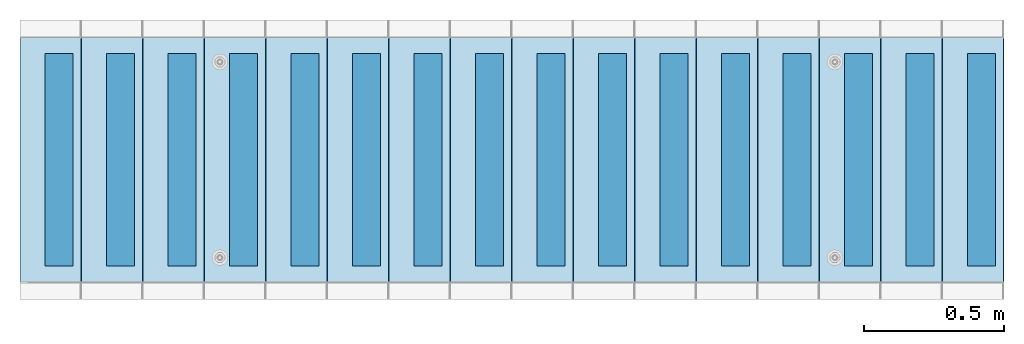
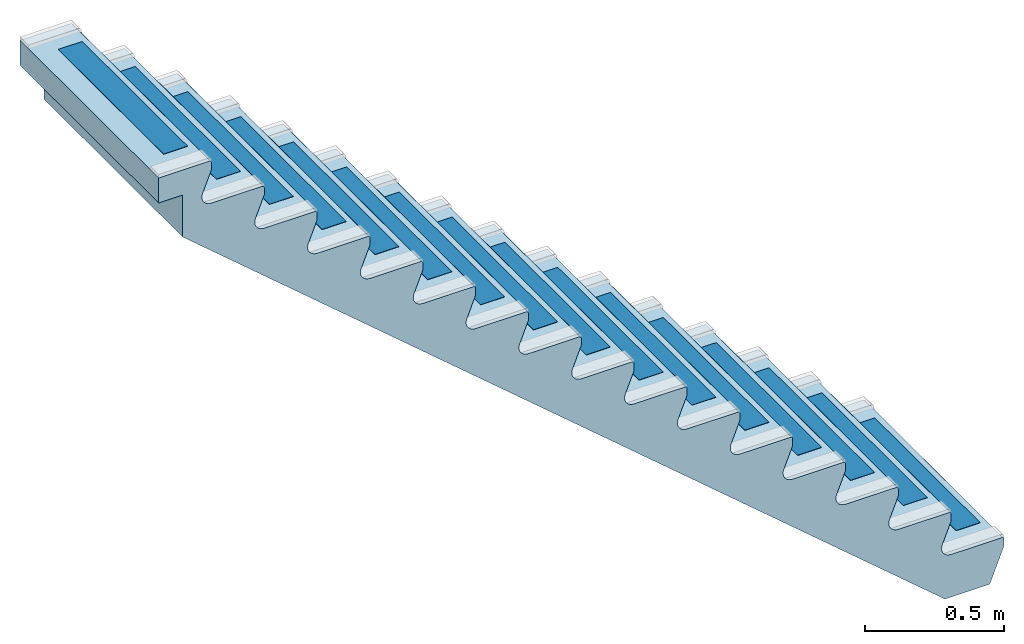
# One storey, part 1 of 4: 16 beams, 1 slab, 17 elements without a shape of their own.
"""IFC2X3 building model written with IfcOpenShell, lengths in millimetres."""

from ifc_helpers import new_model, si_unit, frame, frame_2d, origin_with_axes, origin_2d_with_axis, place, context, subcontext, project, spatial, polyline, circle_curve, parameter, trimmed, segment, composite_curve, rectangle, outline, extrude, material, type_object, element, aggregate, save


model = new_model("IFC2X3")

# Units and contexts
model_context = context("Model", 3, precision=1e-05, world=origin_with_axes())
body_context = subcontext(model_context, "Body", "Model", "MODEL_VIEW")
ifc_project = project(units=[si_unit("LENGTHUNIT", "METRE", prefix="MILLI"), si_unit("AREAUNIT", "SQUARE_METRE"), si_unit("VOLUMEUNIT", "CUBIC_METRE"), si_unit("MASSUNIT", "GRAM", prefix="KILO"), si_unit("TIMEUNIT", "SECOND"), si_unit("PLANEANGLEUNIT", "RADIAN"), si_unit("SOLIDANGLEUNIT", "STERADIAN"), si_unit("THERMODYNAMICTEMPERATUREUNIT", "DEGREE_CELSIUS"), si_unit("LUMINOUSINTENSITYUNIT", "LUMEN")], contexts=[model_context])

# Site, building, storey
site_placement = place(None, origin_with_axes())
site = spatial("IfcSite", under=ifc_project, at=site_placement, Name="Undefined", CompositionType="ELEMENT")
building_placement = place(site_placement, origin_with_axes())
building = spatial("IfcBuilding", under=site, at=building_placement, Name="Undefined", CompositionType="ELEMENT")
storey_placement = place(building_placement, origin_with_axes())
storey = spatial("IfcBuildingStorey", under=building, at=storey_placement, Name="Undefined", CompositionType="ELEMENT", Elevation=0.0)

# Assemblies, beams, slab
assembly_1_placement = place(storey_placement, origin_with_axes())
assembly_1 = element("IfcElementAssembly", 1, at=assembly_1_placement, inside=storey, Name="Trap met bomen", AssemblyPlace="NOTDEFINED", PredefinedType="REINFORCEMENT_UNIT")
assembly_2_placement = place(assembly_1_placement, origin_with_axes())
assembly_2 = element("IfcElementAssembly", 2, at=assembly_2_placement, Name="AntiSkid", AssemblyPlace="NOTDEFINED", PredefinedType="NOTDEFINED")
ifc_material_1 = material(Name="MISCELLANEOUS/RUBBER_HARD")
beam_type = type_object("IfcBeamType", Name="100*2", PredefinedType="NOTDEFINED")
beam_1_placement = place(assembly_2_placement, frame((4620.0, 11620.0, 3000.0), z_axis=(0.0, 0.0, 1.0), x_axis=(0.0, 1.0, 0.0)))
beam_1 = element("IfcBeam", 3, at=beam_1_placement, type_object=beam_type, material=ifc_material_1, Name="AntiSkid", ObjectType="100*2", context=body_context, shape_type="SweptSolid", body=[
    extrude(rectangle(XDim=100.0, YDim=2.0, at=origin_2d_with_axis()), frame((760.0, 0.0, 0.0), z_axis=(-1.0, 0.0, 0.0), x_axis=(0.0, -1.0, 0.0)), (0.0, 0.0, 1.0), 760.0),
])
aggregate(assembly_2, [beam_1])
assembly_3_placement = place(assembly_1_placement, origin_with_axes())
assembly_3 = element("IfcElementAssembly", 4, at=assembly_3_placement, Name="AntiSkid", AssemblyPlace="NOTDEFINED", PredefinedType="NOTDEFINED")
beam_2_placement = place(assembly_3_placement, frame((4840.0, 11620.0, 2812.5), z_axis=(0.0, 0.0, 1.0), x_axis=(0.0, 1.0, 0.0)))
beam_2 = element("IfcBeam", 5, at=beam_2_placement, type_object=beam_type, material=ifc_material_1, Name="AntiSkid", ObjectType="100*2", context=body_context, shape_type="SweptSolid", body=[
    extrude(rectangle(XDim=100.0, YDim=2.0, at=origin_2d_with_axis()), frame((760.0, 0.0, 0.0), z_axis=(-1.0, 0.0, 0.0), x_axis=(0.0, -1.0, 0.0)), (0.0, 0.0, 1.0), 760.0),
])
aggregate(assembly_3, [beam_2])
assembly_4_placement = place(assembly_1_placement, origin_with_axes())
assembly_4 = element("IfcElementAssembly", 6, at=assembly_4_placement, Name="AntiSkid", AssemblyPlace="NOTDEFINED", PredefinedType="NOTDEFINED")
beam_3_placement = place(assembly_4_placement, frame((5060.0, 11620.0, 2625.0), z_axis=(0.0, 0.0, 1.0), x_axis=(0.0, 1.0, 0.0)))
beam_3 = element("IfcBeam", 7, at=beam_3_placement, type_object=beam_type, material=ifc_material_1, Name="AntiSkid", ObjectType="100*2", context=body_context, shape_type="SweptSolid", body=[
    extrude(rectangle(XDim=100.0, YDim=2.0, at=origin_2d_with_axis()), frame((760.0, 0.0, 0.0), z_axis=(-1.0, 0.0, 0.0), x_axis=(0.0, -1.0, 0.0)), (0.0, 0.0, 1.0), 760.0),
])
aggregate(assembly_4, [beam_3])
assembly_5_placement = place(assembly_1_placement, origin_with_axes())
assembly_5 = element("IfcElementAssembly", 8, at=assembly_5_placement, Name="AntiSkid", AssemblyPlace="NOTDEFINED", PredefinedType="NOTDEFINED")
beam_4_placement = place(assembly_5_placement, frame((5280.0, 11620.0, 2437.5), z_axis=(0.0, 0.0, 1.0), x_axis=(0.0, 1.0, 0.0)))
beam_4 = element("IfcBeam", 9, at=beam_4_placement, type_object=beam_type, material=ifc_material_1, Name="AntiSkid", ObjectType="100*2", context=body_context, shape_type="SweptSolid", body=[
    extrude(rectangle(XDim=100.0, YDim=2.0, at=origin_2d_with_axis()), frame((760.0, 0.0, 0.0), z_axis=(-1.0, 0.0, 0.0), x_axis=(0.0, -1.0, 0.0)), (0.0, 0.0, 1.0), 760.0),
])
aggregate(assembly_5, [beam_4])
assembly_6_placement = place(assembly_1_placement, origin_with_axes())
assembly_6 = element("IfcElementAssembly", 10, at=assembly_6_placement, Name="AntiSkid", AssemblyPlace="NOTDEFINED", PredefinedType="NOTDEFINED")
beam_5_placement = place(assembly_6_placement, frame((5500.0, 11620.0, 2250.0), z_axis=(0.0, 0.0, 1.0), x_axis=(0.0, 1.0, 0.0)))
beam_5 = element("IfcBeam", 11, at=beam_5_placement, type_object=beam_type, material=ifc_material_1, Name="AntiSkid", ObjectType="100*2", context=body_context, shape_type="SweptSolid", body=[
    extrude(rectangle(XDim=100.0, YDim=2.0, at=origin_2d_with_axis()), frame((760.0, 0.0, 0.0), z_axis=(-1.0, 0.0, 0.0), x_axis=(0.0, -1.0, 0.0)), (0.0, 0.0, 1.0), 760.0),
])
aggregate(assembly_6, [beam_5])
assembly_7_placement = place(assembly_1_placement, origin_with_axes())
assembly_7 = element("IfcElementAssembly", 12, at=assembly_7_placement, Name="AntiSkid", AssemblyPlace="NOTDEFINED", PredefinedType="NOTDEFINED")
beam_6_placement = place(assembly_7_placement, frame((5720.0, 11620.0, 2062.5), z_axis=(0.0, 0.0, 1.0), x_axis=(0.0, 1.0, 0.0)))
beam_6 = element("IfcBeam", 13, at=beam_6_placement, type_object=beam_type, material=ifc_material_1, Name="AntiSkid", ObjectType="100*2", context=body_context, shape_type="SweptSolid", body=[
    extrude(rectangle(XDim=100.0, YDim=2.0, at=origin_2d_with_axis()), frame((760.0, 0.0, 0.0), z_axis=(-1.0, 0.0, 0.0), x_axis=(0.0, -1.0, 0.0)), (0.0, 0.0, 1.0), 760.0),
])
aggregate(assembly_7, [beam_6])
assembly_8_placement = place(assembly_1_placement, origin_with_axes())
assembly_8 = element("IfcElementAssembly", 14, at=assembly_8_placement, Name="AntiSkid", AssemblyPlace="NOTDEFINED", PredefinedType="NOTDEFINED")
beam_7_placement = place(assembly_8_placement, frame((5940.0, 11620.0, 1875.0), z_axis=(0.0, 0.0, 1.0), x_axis=(0.0, 1.0, 0.0)))
beam_7 = element("IfcBeam", 15, at=beam_7_placement, type_object=beam_type, material=ifc_material_1, Name="AntiSkid", ObjectType="100*2", context=body_context, shape_type="SweptSolid", body=[
    extrude(rectangle(XDim=100.0, YDim=2.0, at=origin_2d_with_axis()), frame((760.0, 0.0, 0.0), z_axis=(-1.0, 0.0, 0.0), x_axis=(0.0, -1.0, 0.0)), (0.0, 0.0, 1.0), 760.0),
])
aggregate(assembly_8, [beam_7])
assembly_9_placement = place(assembly_1_placement, origin_with_axes())
assembly_9 = element("IfcElementAssembly", 16, at=assembly_9_placement, Name="AntiSkid", AssemblyPlace="NOTDEFINED", PredefinedType="NOTDEFINED")
beam_8_placement = place(assembly_9_placement, frame((6160.0, 11620.0, 1687.5), z_axis=(0.0, 0.0, 1.0), x_axis=(0.0, 1.0, 0.0)))
beam_8 = element("IfcBeam", 17, at=beam_8_placement, type_object=beam_type, material=ifc_material_1, Name="AntiSkid", ObjectType="100*2", context=body_context, shape_type="SweptSolid", body=[
    extrude(rectangle(XDim=100.0, YDim=2.0, at=origin_2d_with_axis()), frame((760.0, 0.0, 0.0), z_axis=(-1.0, 0.0, 0.0), x_axis=(0.0, -1.0, 0.0)), (0.0, 0.0, 1.0), 760.0),
])
aggregate(assembly_9, [beam_8])
assembly_10_placement = place(assembly_1_placement, origin_with_axes())
assembly_10 = element("IfcElementAssembly", 18, at=assembly_10_placement, Name="AntiSkid", AssemblyPlace="NOTDEFINED", PredefinedType="NOTDEFINED")
beam_9_placement = place(assembly_10_placement, frame((6380.0, 11620.0, 1500.0), z_axis=(0.0, 0.0, 1.0), x_axis=(0.0, 1.0, 0.0)))
beam_9 = element("IfcBeam", 19, at=beam_9_placement, type_object=beam_type, material=ifc_material_1, Name="AntiSkid", ObjectType="100*2", context=body_context, shape_type="SweptSolid", body=[
    extrude(rectangle(XDim=100.0, YDim=2.0, at=origin_2d_with_axis()), frame((760.0, 0.0, 0.0), z_axis=(-1.0, 0.0, 0.0), x_axis=(0.0, -1.0, 0.0)), (0.0, 0.0, 1.0), 760.0),
])
aggregate(assembly_10, [beam_9])
assembly_11_placement = place(assembly_1_placement, origin_with_axes())
assembly_11 = element("IfcElementAssembly", 20, at=assembly_11_placement, Name="AntiSkid", AssemblyPlace="NOTDEFINED", PredefinedType="NOTDEFINED")
beam_10_placement = place(assembly_11_placement, frame((6600.0, 11620.0, 1312.5), z_axis=(0.0, 0.0, 1.0), x_axis=(0.0, 1.0, 0.0)))
beam_10 = element("IfcBeam", 21, at=beam_10_placement, type_object=beam_type, material=ifc_material_1, Name="AntiSkid", ObjectType="100*2", context=body_context, shape_type="SweptSolid", body=[
    extrude(rectangle(XDim=100.0, YDim=2.0, at=origin_2d_with_axis()), frame((760.0, 0.0, 0.0), z_axis=(-1.0, 0.0, 0.0), x_axis=(0.0, -1.0, 0.0)), (0.0, 0.0, 1.0), 760.0),
])
aggregate(assembly_11, [beam_10])
assembly_12_placement = place(assembly_1_placement, origin_with_axes())
assembly_12 = element("IfcElementAssembly", 22, at=assembly_12_placement, Name="AntiSkid", AssemblyPlace="NOTDEFINED", PredefinedType="NOTDEFINED")
beam_11_placement = place(assembly_12_placement, frame((6820.0, 11620.0, 1125.0), z_axis=(0.0, 0.0, 1.0), x_axis=(0.0, 1.0, 0.0)))
beam_11 = element("IfcBeam", 23, at=beam_11_placement, type_object=beam_type, material=ifc_material_1, Name="AntiSkid", ObjectType="100*2", context=body_context, shape_type="SweptSolid", body=[
    extrude(rectangle(XDim=100.0, YDim=2.0, at=origin_2d_with_axis()), frame((760.0, 0.0, 0.0), z_axis=(-1.0, 0.0, 0.0), x_axis=(0.0, -1.0, 0.0)), (0.0, 0.0, 1.0), 760.0),
])
aggregate(assembly_12, [beam_11])
assembly_13_placement = place(assembly_1_placement, origin_with_axes())
assembly_13 = element("IfcElementAssembly", 24, at=assembly_13_placement, Name="AntiSkid", AssemblyPlace="NOTDEFINED", PredefinedType="NOTDEFINED")
beam_12_placement = place(assembly_13_placement, frame((7040.0, 11620.0, 937.500000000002), z_axis=(0.0, 0.0, 1.0), x_axis=(0.0, 1.0, 0.0)))
beam_12 = element("IfcBeam", 25, at=beam_12_placement, type_object=beam_type, material=ifc_material_1, Name="AntiSkid", ObjectType="100*2", context=body_context, shape_type="SweptSolid", body=[
    extrude(rectangle(XDim=100.0, YDim=2.0, at=origin_2d_with_axis()), frame((760.0, 0.0, 0.0), z_axis=(-1.0, 0.0, 0.0), x_axis=(0.0, -1.0, 0.0)), (0.0, 0.0, 1.0), 760.0),
])
aggregate(assembly_13, [beam_12])
assembly_14_placement = place(assembly_1_placement, origin_with_axes())
assembly_14 = element("IfcElementAssembly", 26, at=assembly_14_placement, Name="AntiSkid", AssemblyPlace="NOTDEFINED", PredefinedType="NOTDEFINED")
beam_13_placement = place(assembly_14_placement, frame((7260.0, 11620.0, 750.000000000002), z_axis=(0.0, 0.0, 1.0), x_axis=(0.0, 1.0, 0.0)))
beam_13 = element("IfcBeam", 27, at=beam_13_placement, type_object=beam_type, material=ifc_material_1, Name="AntiSkid", ObjectType="100*2", context=body_context, shape_type="SweptSolid", body=[
    extrude(rectangle(XDim=100.0, YDim=2.0, at=origin_2d_with_axis()), frame((760.0, 0.0, 0.0), z_axis=(-1.0, 0.0, 0.0), x_axis=(0.0, -1.0, 0.0)), (0.0, 0.0, 1.0), 760.0),
])
aggregate(assembly_14, [beam_13])
assembly_15_placement = place(assembly_1_placement, origin_with_axes())
assembly_15 = element("IfcElementAssembly", 28, at=assembly_15_placement, Name="AntiSkid", AssemblyPlace="NOTDEFINED", PredefinedType="NOTDEFINED")
beam_14_placement = place(assembly_15_placement, frame((7480.0, 11620.0, 562.500000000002), z_axis=(0.0, 0.0, 1.0), x_axis=(0.0, 1.0, 0.0)))
beam_14 = element("IfcBeam", 29, at=beam_14_placement, type_object=beam_type, material=ifc_material_1, Name="AntiSkid", ObjectType="100*2", context=body_context, shape_type="SweptSolid", body=[
    extrude(rectangle(XDim=100.0, YDim=2.0, at=origin_2d_with_axis()), frame((760.0, 0.0, 0.0), z_axis=(-1.0, 0.0, 0.0), x_axis=(0.0, -1.0, 0.0)), (0.0, 0.0, 1.0), 760.0),
])
aggregate(assembly_15, [beam_14])
assembly_16_placement = place(assembly_1_placement, origin_with_axes())
assembly_16 = element("IfcElementAssembly", 30, at=assembly_16_placement, Name="AntiSkid", AssemblyPlace="NOTDEFINED", PredefinedType="NOTDEFINED")
beam_15_placement = place(assembly_16_placement, frame((7700.0, 11620.0, 375.000000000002), z_axis=(0.0, 0.0, 1.0), x_axis=(0.0, 1.0, 0.0)))
beam_15 = element("IfcBeam", 31, at=beam_15_placement, type_object=beam_type, material=ifc_material_1, Name="AntiSkid", ObjectType="100*2", context=body_context, shape_type="SweptSolid", body=[
    extrude(rectangle(XDim=100.0, YDim=2.0, at=origin_2d_with_axis()), frame((760.0, 0.0, 0.0), z_axis=(-1.0, 0.0, 0.0), x_axis=(0.0, -1.0, 0.0)), (0.0, 0.0, 1.0), 760.0),
])
aggregate(assembly_16, [beam_15])
assembly_17_placement = place(assembly_1_placement, origin_with_axes())
assembly_17 = element("IfcElementAssembly", 32, at=assembly_17_placement, Name="AntiSkid", AssemblyPlace="NOTDEFINED", PredefinedType="NOTDEFINED")
beam_16_placement = place(assembly_17_placement, frame((7920.0, 11620.0, 187.500000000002), z_axis=(0.0, 0.0, 1.0), x_axis=(0.0, 1.0, 0.0)))
beam_16 = element("IfcBeam", 33, at=beam_16_placement, type_object=beam_type, material=ifc_material_1, Name="AntiSkid", ObjectType="100*2", context=body_context, shape_type="SweptSolid", body=[
    extrude(rectangle(XDim=100.0, YDim=2.0, at=origin_2d_with_axis()), frame((760.0, 0.0, 0.0), z_axis=(-1.0, 0.0, 0.0), x_axis=(0.0, -1.0, 0.0)), (0.0, 0.0, 1.0), 760.0),
])
aggregate(assembly_17, [beam_16])
ifc_material_2 = material(Name="CONCRETE/C55/67")
slab_type = type_object("IfcSlabType", Name="1000*298.1", PredefinedType="NOTDEFINED")
slab_placement = place(assembly_1_placement, frame((7940.87051246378, 12000.0, 1.81898940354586e-12), z_axis=(0.0, -1.0, 0.0), x_axis=(0.372093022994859, 0.0, 0.928195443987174)))
slab = element("IfcSlab", 34, at=slab_placement, type_object=slab_type, material=ifc_material_2, Name="Trap met bomen", ObjectType="1000*298.1", PredefinedType="FLOOR", context=body_context, shape_type="SweptSolid", body=[
    extrude(outline(composite_curve([segment(polyline([(0.0, 0.0), (158.910497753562, -2.18278728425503e-11), (186.756361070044, 11.1627906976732)]), True, "CONTINUOUS"), segment(trimmed(circle_curve(frame_2d((183.035430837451, 20.444745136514), x_axis=(0.372093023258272, -0.928195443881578)), 10.0), [parameter(0.0)], [parameter(1.57079632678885)], True, "PARAMETER"), True, "CONTINUOUS"), segment(polyline([(192.317385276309, 24.1656753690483), (114.17785039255, 219.086718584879)]), True, "CONTINUOUS"), segment(trimmed(circle_curve(frame_2d((151.305668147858, 233.970439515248), x_axis=(-0.928195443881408, -0.372093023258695)), 40.0), [parameter(0.0)], [parameter(4.33112603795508)], False, "PARAMETER"), True, "CONTINUOUS"), segment(polyline([(151.305668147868, 273.970439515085), (251.086678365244, 273.970439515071), (278.932541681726, 285.133230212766)]), True, "CONTINUOUS"), segment(trimmed(circle_curve(frame_2d((275.211611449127, 294.415184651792), x_axis=(0.372093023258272, -0.928195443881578)), 10.0), [parameter(0.0)], [parameter(1.5707963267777)], True, "PARAMETER"), True, "CONTINUOUS"), segment(polyline([(284.493565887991, 298.136114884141), (206.354031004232, 493.057158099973)]), True, "CONTINUOUS"), segment(trimmed(circle_curve(frame_2d((243.481848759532, 507.940879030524), x_axis=(-0.928195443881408, -0.372093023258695)), 40.0), [parameter(0.0)], [parameter(4.33112603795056)], False, "PARAMETER"), True, "CONTINUOUS"), segment(polyline([(243.48184875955, 547.94087903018), (343.262858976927, 547.940879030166), (371.108722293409, 559.103669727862)]), True, "CONTINUOUS"), segment(trimmed(circle_curve(frame_2d((367.3877920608, 568.38562416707), x_axis=(0.372093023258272, -0.928195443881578)), 10.0), [parameter(0.0)], [parameter(1.5707963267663)], True, "PARAMETER"), True, "CONTINUOUS"), segment(polyline([(376.669746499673, 572.106554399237), (298.530211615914, 767.027597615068)]), True, "CONTINUOUS"), segment(trimmed(circle_curve(frame_2d((335.658029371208, 781.911318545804), x_axis=(-0.928195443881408, -0.372093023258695)), 40.0), [parameter(0.0)], [parameter(4.33112603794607)], False, "PARAMETER"), True, "CONTINUOUS"), segment(polyline([(335.658029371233, 821.911318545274), (435.439039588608, 821.911318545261), (463.28490290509, 833.074109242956)]), True, "CONTINUOUS"), segment(trimmed(circle_curve(frame_2d((459.563972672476, 842.356063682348), x_axis=(0.372093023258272, -0.928195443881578)), 10.0), [parameter(0.0)], [parameter(1.57079632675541)], True, "PARAMETER"), True, "CONTINUOUS"), segment(polyline([(468.845927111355, 846.076993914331), (390.706392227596, 1040.99803713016)]), True, "CONTINUOUS"), segment(trimmed(circle_curve(frame_2d((427.834209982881, 1055.88175806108), x_axis=(-0.928195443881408, -0.372093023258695)), 40.0), [parameter(0.0)], [parameter(4.33112603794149)], False, "PARAMETER"), True, "CONTINUOUS"), segment(polyline([(427.834209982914, 1095.88175806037), (527.61522020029, 1095.88175806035), (555.461083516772, 1107.04454875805)]), True, "CONTINUOUS"), segment(trimmed(circle_curve(frame_2d((551.740153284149, 1116.32650319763), x_axis=(0.372093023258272, -0.928195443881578)), 10.0), [parameter(0.0)], [parameter(1.57079632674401)], True, "PARAMETER"), True, "CONTINUOUS"), segment(polyline([(561.022107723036, 1120.04743342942), (482.882572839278, 1314.96847664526)]), True, "CONTINUOUS"), segment(trimmed(circle_curve(frame_2d((520.010390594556, 1329.85219757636), x_axis=(-0.928195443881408, -0.372093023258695)), 40.0), [parameter(0.0)], [parameter(4.33112603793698)], False, "PARAMETER"), True, "CONTINUOUS"), segment(polyline([(520.010390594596, 1369.85219757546), (619.791400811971, 1369.85219757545), (647.637264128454, 1381.01498827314)]), True, "CONTINUOUS"), segment(trimmed(circle_curve(frame_2d((643.916333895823, 1390.29694271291), x_axis=(0.372093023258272, -0.928195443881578)), 10.0), [parameter(0.0)], [parameter(1.57079632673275)], True, "PARAMETER"), True, "CONTINUOUS"), segment(polyline([(653.198288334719, 1394.01787294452), (575.05875345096, 1588.93891616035)]), True, "CONTINUOUS"), segment(trimmed(circle_curve(frame_2d((612.186571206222, 1603.82263709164), x_axis=(-0.928195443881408, -0.372093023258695)), 40.0), [parameter(0.0)], [parameter(4.33112603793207)], False, "PARAMETER"), True, "CONTINUOUS"), segment(polyline([(612.186571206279, 1643.82263709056), (711.967581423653, 1643.82263709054), (739.813444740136, 1654.98542778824)]), True, "CONTINUOUS"), segment(trimmed(circle_curve(frame_2d((736.092514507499, 1664.26738222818), x_axis=(0.372093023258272, -0.928195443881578)), 10.0), [parameter(0.0)], [parameter(1.57079632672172)], True, "PARAMETER"), True, "CONTINUOUS"), segment(polyline([(745.374468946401, 1667.98831245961), (667.234934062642, 1862.90935567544)]), True, "CONTINUOUS"), segment(trimmed(circle_curve(frame_2d((704.362751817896, 1877.79307660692), x_axis=(-0.928195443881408, -0.372093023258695)), 40.0), [parameter(0.0)], [parameter(4.33112603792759)], False, "PARAMETER"), True, "CONTINUOUS"), segment(polyline([(704.36275181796, 1917.79307660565), (804.143762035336, 1917.79307660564), (831.989625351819, 1928.95586730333)]), True, "CONTINUOUS"), segment(trimmed(circle_curve(frame_2d((828.268695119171, 1938.23782174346), x_axis=(0.372093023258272, -0.928195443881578)), 10.0), [parameter(0.0)], [parameter(1.57079632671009)], True, "PARAMETER"), True, "CONTINUOUS"), segment(polyline([(837.550649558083, 1941.95875197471), (759.411114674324, 2136.87979519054)]), True, "CONTINUOUS"), segment(trimmed(circle_curve(frame_2d((796.538932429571, 2151.7635161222), x_axis=(-0.928195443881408, -0.372093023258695)), 40.0), [parameter(0.0)], [parameter(4.33112603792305)], False, "PARAMETER"), True, "CONTINUOUS"), segment(polyline([(796.538932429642, 2191.76351612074), (896.319942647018, 2191.76351612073), (924.1658059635, 2202.92630681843)]), True, "CONTINUOUS"), segment(trimmed(circle_curve(frame_2d((920.444875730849, 2212.20826125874), x_axis=(0.372093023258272, -0.928195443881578)), 10.0), [parameter(0.0)], [parameter(1.57079632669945)], True, "PARAMETER"), True, "CONTINUOUS"), segment(polyline([(929.726830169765, 2215.9291914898), (851.587295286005, 2410.85023470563)]), True, "CONTINUOUS"), segment(trimmed(circle_curve(frame_2d((888.715113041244, 2425.73395563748), x_axis=(-0.928195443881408, -0.372093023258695)), 40.0), [parameter(0.0)], [parameter(4.33112603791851)], False, "PARAMETER"), True, "CONTINUOUS"), segment(polyline([(888.715113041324, 2465.73395563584), (988.4961232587, 2465.73395563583), (1016.34198657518, 2476.89674633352)]), True, "CONTINUOUS"), segment(trimmed(circle_curve(frame_2d((1012.62105634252, 2486.17870077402), x_axis=(0.372093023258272, -0.928195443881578)), 10.0), [parameter(0.0)], [parameter(1.57079632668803)], True, "PARAMETER"), True, "CONTINUOUS"), segment(polyline([(1021.90301078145, 2489.8996310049), (943.763475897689, 2684.82067422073)]), True, "CONTINUOUS"), segment(trimmed(circle_curve(frame_2d((980.89129365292, 2699.70439515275), x_axis=(-0.928195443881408, -0.372093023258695)), 40.0), [parameter(0.0)], [parameter(4.33112603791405)], False, "PARAMETER"), True, "CONTINUOUS"), segment(polyline([(980.891293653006, 2739.70439515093), (1080.67230387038, 2739.70439515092), (1108.51816718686, 2750.86718584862)]), True, "CONTINUOUS"), segment(trimmed(circle_curve(frame_2d((1104.7972369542, 2760.1491402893), x_axis=(0.372093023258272, -0.928195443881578)), 10.0), [parameter(0.0)], [parameter(1.57079632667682)], True, "PARAMETER"), True, "CONTINUOUS"), segment(polyline([(1114.07919139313, 2763.87007051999), (1035.93965650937, 2958.79111373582)]), True, "CONTINUOUS"), segment(trimmed(circle_curve(frame_2d((1073.06747426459, 2973.67483466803), x_axis=(-0.928195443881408, -0.372093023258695)), 40.0), [parameter(0.0)], [parameter(4.33112603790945)], False, "PARAMETER"), True, "CONTINUOUS"), segment(polyline([(1073.06747426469, 3013.67483466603), (1172.84848448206, 3013.67483466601), (1200.69434779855, 3024.83762536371)]), True, "CONTINUOUS"), segment(trimmed(circle_curve(frame_2d((1196.97341756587, 3034.11957980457), x_axis=(0.372093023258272, -0.928195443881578)), 10.0), [parameter(0.0)], [parameter(1.57079632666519)], True, "PARAMETER"), True, "CONTINUOUS"), segment(polyline([(1206.25537200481, 3037.84051003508), (1128.11583712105, 3232.76155325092)]), True, "CONTINUOUS"), segment(trimmed(circle_curve(frame_2d((1165.24365487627, 3247.64527418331), x_axis=(-0.928195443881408, -0.372093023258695)), 40.0), [parameter(0.0)], [parameter(4.33112603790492)], False, "PARAMETER"), True, "CONTINUOUS"), segment(polyline([(1165.24365487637, 3287.64527418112), (1265.02466509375, 3287.64527418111), (1292.87052841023, 3298.8080648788)]), True, "CONTINUOUS"), segment(trimmed(circle_curve(frame_2d((1289.14959817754, 3308.09001931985), x_axis=(0.372093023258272, -0.928195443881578)), 10.0), [parameter(0.0)], [parameter(1.57079632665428)], True, "PARAMETER"), True, "CONTINUOUS"), segment(polyline([(1298.43155261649, 3311.81094955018), (1220.29201773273, 3506.73199276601)]), True, "CONTINUOUS"), segment(trimmed(circle_curve(frame_2d((1257.41983548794, 3521.61571369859), x_axis=(-0.928195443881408, -0.372093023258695)), 40.0), [parameter(0.0)], [parameter(4.33112603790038)], False, "PARAMETER"), True, "CONTINUOUS"), segment(polyline([(1257.41983548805, 3561.61571369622), (1357.20084570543, 3561.6157136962), (1385.04670902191, 3572.7785043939)]), True, "CONTINUOUS"), segment(trimmed(circle_curve(frame_2d((1381.32577878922, 3582.06045883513), x_axis=(0.372093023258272, -0.928195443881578)), 10.0), [parameter(0.0)], [parameter(1.57079632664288)], True, "PARAMETER"), True, "CONTINUOUS"), segment(polyline([(1390.60773322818, 3585.78138906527), (1312.46819834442, 3780.7024322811)]), True, "CONTINUOUS"), segment(trimmed(circle_curve(frame_2d((1349.59601609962, 3795.58615321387), x_axis=(-0.928195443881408, -0.372093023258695)), 40.0), [parameter(0.0)], [parameter(4.33112603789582)], False, "PARAMETER"), True, "CONTINUOUS"), segment(polyline([(1349.59601609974, 3835.58615321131), (1449.37702631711, 3835.5861532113), (1477.22288963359, 3846.74894390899)]), True, "CONTINUOUS"), segment(trimmed(circle_curve(frame_2d((1473.50195940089, 3856.03089835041), x_axis=(0.372093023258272, -0.928195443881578)), 10.0), [parameter(0.0)], [parameter(1.5707963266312)], True, "PARAMETER"), True, "CONTINUOUS"), segment(polyline([(1482.78391383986, 3859.75182858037), (1404.6443789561, 4054.6728717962)]), True, "CONTINUOUS"), segment(trimmed(circle_curve(frame_2d((1441.77219671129, 4069.55659272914), x_axis=(-0.928195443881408, -0.372093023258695)), 40.0), [parameter(0.0)], [parameter(4.33112603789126)], False, "PARAMETER"), True, "CONTINUOUS"), segment(polyline([(1441.77219671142, 4109.5565927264), (1541.55320692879, 4109.55659272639), (1569.39907024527, 4120.71938342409)]), True, "CONTINUOUS"), segment(trimmed(circle_curve(frame_2d((1565.67814001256, 4130.00133786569), x_axis=(0.372093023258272, -0.928195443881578)), 10.0), [parameter(0.0)], [parameter(1.57079632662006)], True, "PARAMETER"), True, "CONTINUOUS"), segment(polyline([(1574.96009445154, 4133.72226809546), (1496.82055956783, 4328.64331131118), (1394.71906074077, 4287.71307875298), (1431.92836306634, 4194.89353436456), (1260.3320859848, 4126.10438231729), (-69.5264391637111, 173.435458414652), (0.0, 0.0)]), True, "CONTINUOUS")], self_intersect=False)), frame((0.0, 0.0, -500.000000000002), z_axis=(0.0, 0.0, 1.0), x_axis=(1.0, 0.0, 0.0)), (0.0, 0.0, 1.0), 1000.0),
])
aggregate(assembly_1, [assembly_2, assembly_3, assembly_4, assembly_5, assembly_6, assembly_7, assembly_8, assembly_9, assembly_10, assembly_11, assembly_12, assembly_13, assembly_14, assembly_15, assembly_16, assembly_17, slab])

save(model, "model.ifc")
